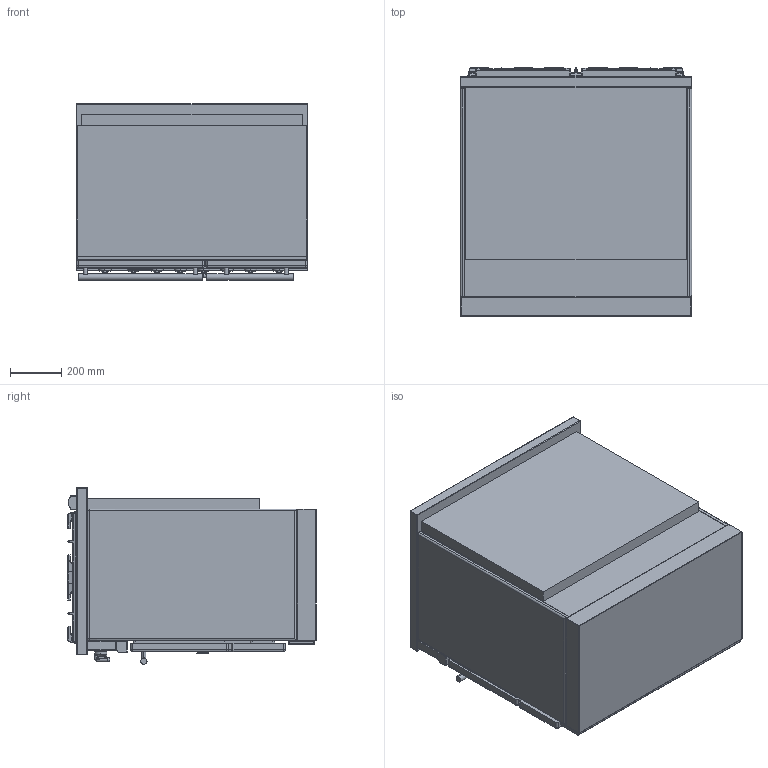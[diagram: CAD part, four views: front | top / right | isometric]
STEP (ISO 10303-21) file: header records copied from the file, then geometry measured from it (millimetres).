
FILE_DESCRIPTION((''),'2;1');
FILE_NAME('LMG962G_ASM','2022-04-13T11:14:13',('stagiaire'),(''),'CREO PARAMETRIC BY PTC INC, 2021424','CREO PARAMETRIC BY PTC INC, 2021424','');
FILE_SCHEMA(('AP203_CONFIGURATION_CONTROLLED_3D_DESIGN_OF_MECHANICAL_PARTS_AND_ASSEMBLIES_MIM_LF { 1 0 10303 403 2 1 2 }'));
Products named in the file (19): BASE_EXPORT_BUSSY_MODERN; 65064012; 19150009; 88064012_ASM; 65650001; 65049009; BASE_EXPORT_BUSSY_MODERN_ASM; TABLE_900_CLASSIQUE; 3KW; 1_5KW; 4KW; 6537023; 65149005; 90000565_ASM; 6537024; 90000487_ASM; CHEMINEE_2020_LG371_EXPORT_STEP; TABLE_900_CLASSIQUE_ASM; LMG962G_ASM
Assembly tree (37 placements, depth 4):
  LMG962G_ASM
    BASE_EXPORT_BUSSY_MODERN_ASM
      BASE_EXPORT_BUSSY_MODERN
      88064012_ASM  x8
        65064012
        19150009
      65650001
      65049009
    TABLE_900_CLASSIQUE_ASM
      TABLE_900_CLASSIQUE
      3KW  x3
      1_5KW  x2
      4KW
      90000565_ASM
        6537023
        65149005  x4
      90000487_ASM  x2
        6537024
        65149005
      CHEMINEE_2020_LG371_EXPORT_STEP  x2
Bounding box: 900 x 965 x 687.75 mm (x, y, z)
Volume: 478828740.4 mm3; surface area: 7967928.5 mm2
Topology: 47 solids, 47 shells, 5399 faces, 14851 edges, 9541 vertices
Faces by surface type: cylinder 1665, plane 1605, bspline 1310, cone 333, sphere 298, torus 126, extrusion 62
Entity records: 137154 total; most frequent: CARTESIAN_POINT 50414, ORIENTED_EDGE 13606, DIRECTION 11873, EDGE_CURVE 6803, PRESENTATION_STYLE_ASSIGNMENT 4898, STYLED_ITEM 4898, CURVE_STYLE 4805, VERTEX_POINT 4074
